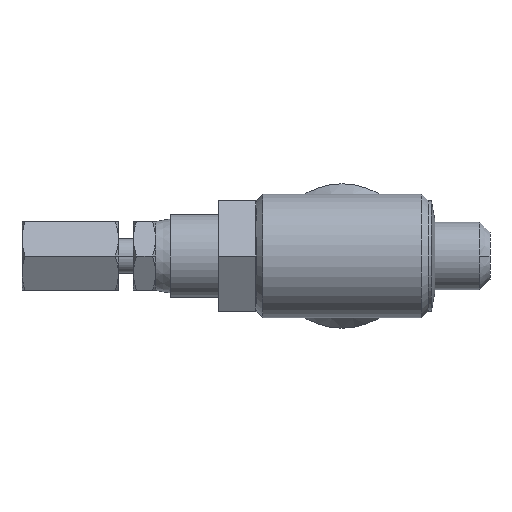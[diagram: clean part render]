
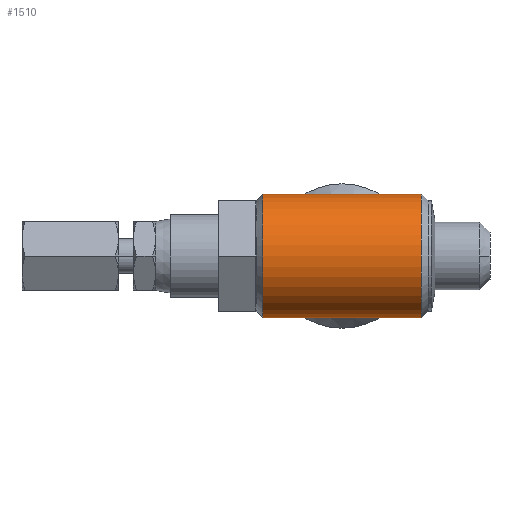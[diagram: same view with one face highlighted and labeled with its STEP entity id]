
A CAD part, left-side view. The second image highlights one B-rep face of the part: STEP entity #1510.
In plain terms, the highlighted cylindrical face has radius 4.5 mm (diameter 9 mm), a partial arc.
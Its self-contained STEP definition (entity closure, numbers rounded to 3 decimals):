
#1510 = ADVANCED_FACE ( 'NONE', ( #12333 ), #3053, .T. ) ;
#1728 = DIRECTION ( 'NONE',  ( 0., 0., -1. ) ) ;
#2752 = VERTEX_POINT ( 'NONE', #11460 ) ;
#3053 = CYLINDRICAL_SURFACE ( 'NONE', #9058, 4.5 ) ;
#3391 = DIRECTION ( 'NONE',  ( 0., -1., 0. ) ) ;
#4018 = LINE ( 'NONE', #4192, #4675 ) ;
#4187 = LINE ( 'NONE', #4608, #5493 ) ;
#4192 = CARTESIAN_POINT ( 'NONE',  ( 0., 3.5, -4.5 ) ) ;
#4608 = CARTESIAN_POINT ( 'NONE',  ( 0., 3.5, 4.5 ) ) ;
#4675 = VECTOR ( 'NONE', #5221, 1000. ) ;
#5075 = ORIENTED_EDGE ( 'NONE', *, *, #8860, .F. ) ;
#5221 = DIRECTION ( 'NONE',  ( 0., -1., 0. ) ) ;
#5247 = EDGE_LOOP ( 'NONE', ( #5075, #10310, #5881, #8480 ) ) ;
#5493 = VECTOR ( 'NONE', #5612, 1000. ) ;
#5612 = DIRECTION ( 'NONE',  ( 0., -1., 0. ) ) ;
#5726 = VERTEX_POINT ( 'NONE', #8298 ) ;
#5881 = ORIENTED_EDGE ( 'NONE', *, *, #9563, .T. ) ;
#6253 = EDGE_CURVE ( 'NONE', #5726, #13380, #8241, .T. ) ;
#6281 = DIRECTION ( 'NONE',  ( 0., 0., -1. ) ) ;
#7135 = CARTESIAN_POINT ( 'NONE',  ( 0., 5., 4.5 ) ) ;
#7252 = CARTESIAN_POINT ( 'NONE',  ( 0., 5., 0. ) ) ;
#8241 = CIRCLE ( 'NONE', #9144, 4.5 ) ;
#8298 = CARTESIAN_POINT ( 'NONE',  ( 0., 5., -4.5 ) ) ;
#8480 = ORIENTED_EDGE ( 'NONE', *, *, #6253, .T. ) ;
#8860 = EDGE_CURVE ( 'NONE', #12145, #13380, #4187, .T. ) ;
#8955 = EDGE_CURVE ( 'NONE', #12145, #2752, #11015, .T. ) ;
#9058 = AXIS2_PLACEMENT_3D ( 'NONE', #9686, #3391, #10644 ) ;
#9144 = AXIS2_PLACEMENT_3D ( 'NONE', #7252, #9316, #1728 ) ;
#9316 = DIRECTION ( 'NONE',  ( 0., 1., 0. ) ) ;
#9343 = DIRECTION ( 'NONE',  ( 0., -1., 0. ) ) ;
#9414 = CARTESIAN_POINT ( 'NONE',  ( 0., 16.5, 4.5 ) ) ;
#9563 = EDGE_CURVE ( 'NONE', #2752, #5726, #4018, .T. ) ;
#9686 = CARTESIAN_POINT ( 'NONE',  ( 0., 3.5, 0. ) ) ;
#10310 = ORIENTED_EDGE ( 'NONE', *, *, #8955, .T. ) ;
#10644 = DIRECTION ( 'NONE',  ( 0., 0., -1. ) ) ;
#10752 = AXIS2_PLACEMENT_3D ( 'NONE', #11430, #9343, #6281 ) ;
#11015 = CIRCLE ( 'NONE', #10752, 4.5 ) ;
#11430 = CARTESIAN_POINT ( 'NONE',  ( 0., 16.5, 0. ) ) ;
#11460 = CARTESIAN_POINT ( 'NONE',  ( 0., 16.5, -4.5 ) ) ;
#12145 = VERTEX_POINT ( 'NONE', #9414 ) ;
#12333 = FACE_OUTER_BOUND ( 'NONE', #5247, .T. ) ;
#13380 = VERTEX_POINT ( 'NONE', #7135 ) ;
